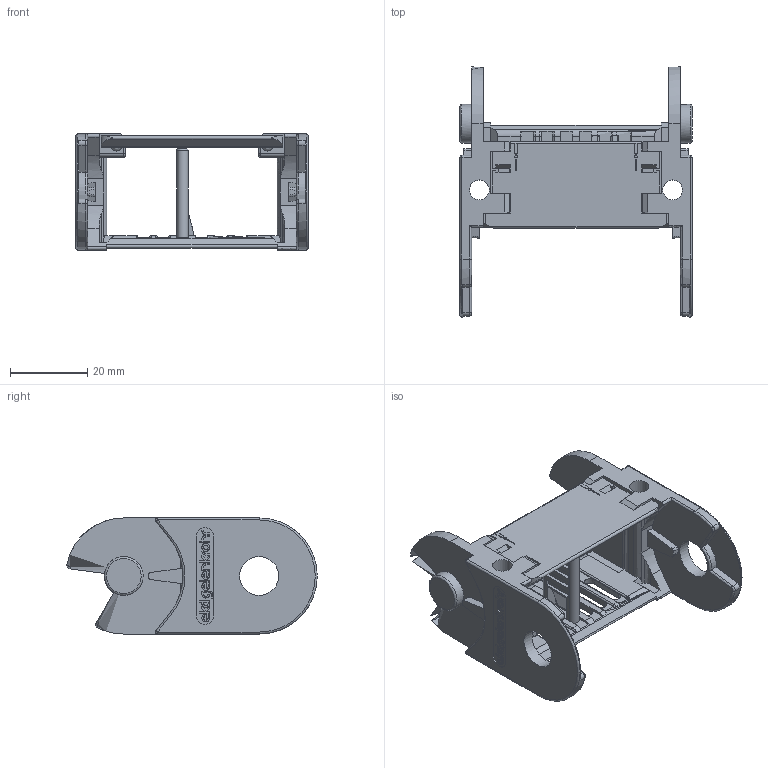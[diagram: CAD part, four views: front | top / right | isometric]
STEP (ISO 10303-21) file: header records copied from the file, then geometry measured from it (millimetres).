
FILE_DESCRIPTION((''),'2;1');
FILE_NAME('C:\Uebbing\PARAMETERKETTEN\KOLIBRI\Kol_30_060_1\Kolibri 30_060_1 Glied.stp','2011-11-02T11:55:49',('Uebbing'),(''),'Autodesk Inventor 10','Autodesk Inventor 10','');
FILE_SCHEMA(('AUTOMOTIVE_DESIGN { 1 0 10303 214 1 1 1 1 }'));
Length unit declared in the file: millimetre
Products named in the file (4): Kolibri 30_060_1 Glied; Kol 30_060_1 Lasche; Kol 30_060_0 Klappsteg; PZ 30 Stecksteg
Assembly tree (3 placements, depth 2):
  Kolibri 30_060_1 Glied
    Kol 30_060_1 Lasche
    Kol 30_060_0 Klappsteg
    PZ 30 Stecksteg
Bounding box: 60 x 64.71 x 30 mm (x, y, z)
Volume: 16513.3 mm3; surface area: 16063.1 mm2
Topology: 3 solids, 3 shells, 798 faces, 2185 edges, 1420 vertices
Faces by surface type: plane 360, bspline 257, cylinder 148, torus 24, cone 6, sphere 3
Full cylindrical faces by diameter (mm): 1.166 x1, 2.048 x1, 2.8 x6, 5.1 x1, 10 x1, 10.1 x1
Entity records: 28399 total; most frequent: CARTESIAN_POINT 8977, ORIENTED_EDGE 4302, DIRECTION 3567, EDGE_CURVE 2151, VERTEX_POINT 1416, VECTOR 1395, LINE 1395, AXIS2_PLACEMENT_3D 1086
